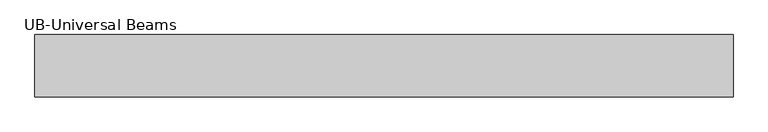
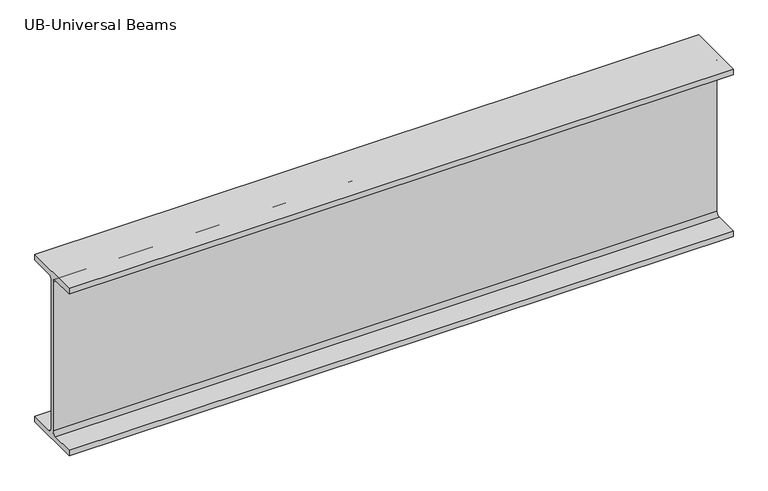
"""IFC4 building model written with IfcOpenShell, lengths in millimetres: beam geometry."""

from ifc_helpers import new_model, si_unit, point, frame, frame_2d, origin, place, context, project, spatial, polyline, circle_curve, trimmed, segment, composite_curve, outline, extrude, source, transform, mapped, element, save


def ub_universal_beams_78ad538f(model_context):
    return source(origin(), model_context, "Body", "SweptSolid", [
        extrude(outline(composite_curve([segment(polyline([(76.9, -214.0), (76.9, -229.0), (-76.9, -229.0), (-76.9, -214.0), (-14.7, -214.0)]), True, "CONTINUOUS"), segment(trimmed(circle_curve(frame_2d((-14.7, -203.8)), 10.2), [point((-14.7, -214.0))], [point((-4.5, -203.8))], True, "CARTESIAN"), True, "CONTINUOUS"), segment(polyline([(-4.5, -203.8), (-4.5, 203.8)]), True, "CONTINUOUS"), segment(trimmed(circle_curve(frame_2d((-14.7, 203.8)), 10.2), [point((-4.5, 203.8))], [point((-14.7, 214.0))], True, "CARTESIAN"), True, "CONTINUOUS"), segment(polyline([(-14.7, 214.0), (-76.9, 214.0), (-76.9, 229.0), (76.9, 229.0), (76.9, 214.0), (14.7, 214.0)]), True, "CONTINUOUS"), segment(trimmed(circle_curve(frame_2d((14.7, 203.8)), 10.2), [point((14.7, 214.0))], [point((4.5, 203.8))], True, "CARTESIAN"), True, "CONTINUOUS"), segment(polyline([(4.5, 203.8), (4.5, -203.8)]), True, "CONTINUOUS"), segment(trimmed(circle_curve(frame_2d((14.7, -203.8)), 10.2), [point((4.5, -203.8))], [point((14.7, -214.0))], True, "CARTESIAN"), True, "CONTINUOUS"), segment(polyline([(14.7, -214.0), (76.9, -214.0)]), True, "CONTINUOUS")], self_intersect=False)), frame((-865.75, 0.0, 0.0), z_axis=(1.0, 0.0, 0.0), x_axis=(0.0, 1.0, 0.0)), (0.0, 0.0, 1.0), 1716.7),
    ])


if __name__ == "__main__":
    model = new_model("IFC4")
    model_context = context("Model", 3, world=origin())
    ifc_project = project(units=[si_unit("LENGTHUNIT", "METRE", prefix="MILLI")], contexts=[model_context])
    site = spatial("IfcSite", under=ifc_project)
    building = spatial("IfcBuilding", under=site)
    placement = place(None, origin())
    ub_universal_beams_shape = ub_universal_beams_78ad538f(model_context)
    element("IfcBeam", 1, ObjectType="UB-Universal Beams : UB 18\" x 6\" x 2 1/2\"", at=placement, inside=building, context=model_context, shape_type="MappedRepresentation", body=[
        mapped(ub_universal_beams_shape, transform((0.0, 0.0, 0.0), x_axis=(1.0, 0.0, 0.0), y_axis=(0.0, 1.0, 0.0), z_axis=(0.0, 0.0, 1.0))),
    ])
    save(model, "model.ifc")
